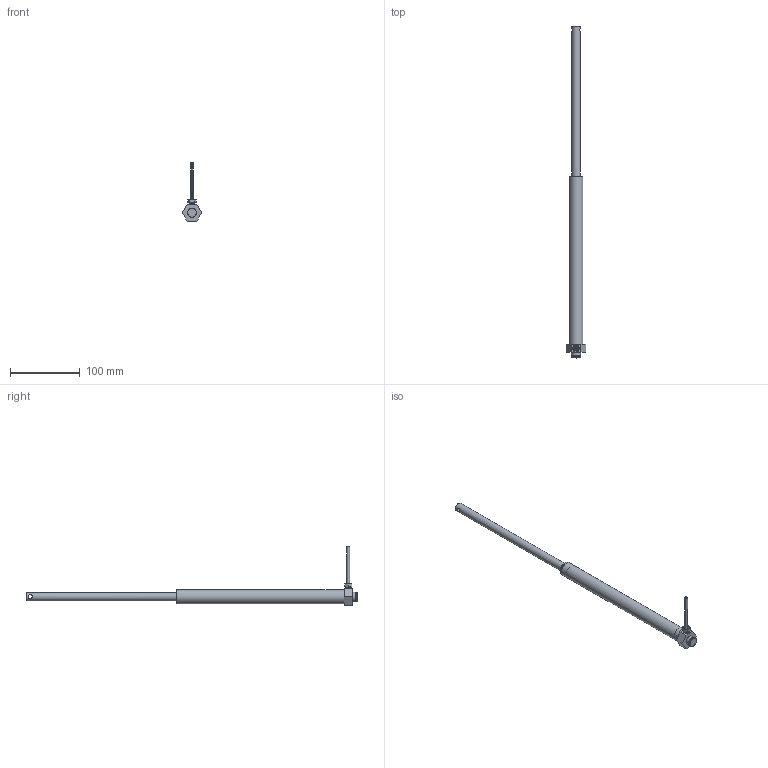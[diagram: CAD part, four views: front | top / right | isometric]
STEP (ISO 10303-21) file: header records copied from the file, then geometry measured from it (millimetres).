
FILE_DESCRIPTION(/* description */ ('Unknown'),/* implementation_level */ '2;1');
FILE_NAME(/* name */ '109.50022 Zylinder CB 1820 ausgefahren',/* time_stamp */ '2018-04-19T16:47:57+02:00',/* author */ ('Unknown'),/* organization */ ('Unknown'),/* preprocessor_version */ 'ST-DEVELOPER v16.7',/* originating_system */ 'DEX',/* authorisation */ $);
FILE_SCHEMA (('AUTOMOTIVE_DESIGN {1 0 10303 214 3 1 1}'));
Length unit declared in the file: millimetre
Products named in the file (9): 109.50022; 121.50002; 142.00021; 125.00021; 115.00008_oa_0; 125.00063; 120.00002; 122.00012; 113.00002_70mm
Assembly tree (8 placements, depth 2):
  109.50022
    121.50002
    142.00021
    125.00021
    115.00008_oa_0
    125.00063
    120.00002
    122.00012
    113.00002_70mm
Bounding box: 27.71 x 476 x 83.5 mm (x, y, z)
Volume: 52000.7 mm3; surface area: 44848.7 mm2
Topology: 7 solids, 7 shells, 93 faces, 192 edges, 122 vertices
Faces by surface type: plane 37, cylinder 28, cone 23, torus 4, sphere 1
Full cylindrical faces by diameter (mm): 2.2 x1, 3 x1, 3.5 x1, 4 x1, 4.1 x1, 4.2 x1, 6 x1, 6.917 x2, 7.763 x2, 8 x3, 8.1 x3, 12 x2, 12.5 x1, 13 x2, 14.4 x1, 17.9 x2, 18 x2, 20 x1
Entity records: 2782 total; most frequent: CARTESIAN_POINT 435, DIRECTION 392, ORIENTED_EDGE 258, AXIS2_PLACEMENT_3D 177, FACE_BOUND 166, EDGE_LOOP 164, EDGE_CURVE 129, VERTEX_POINT 111
